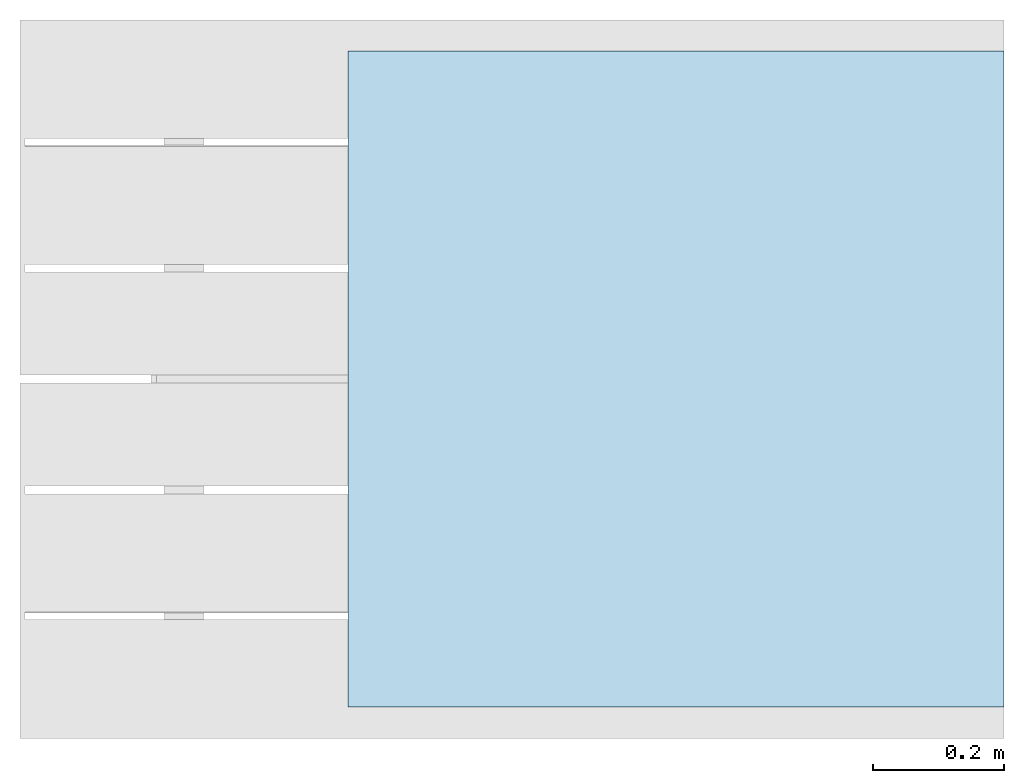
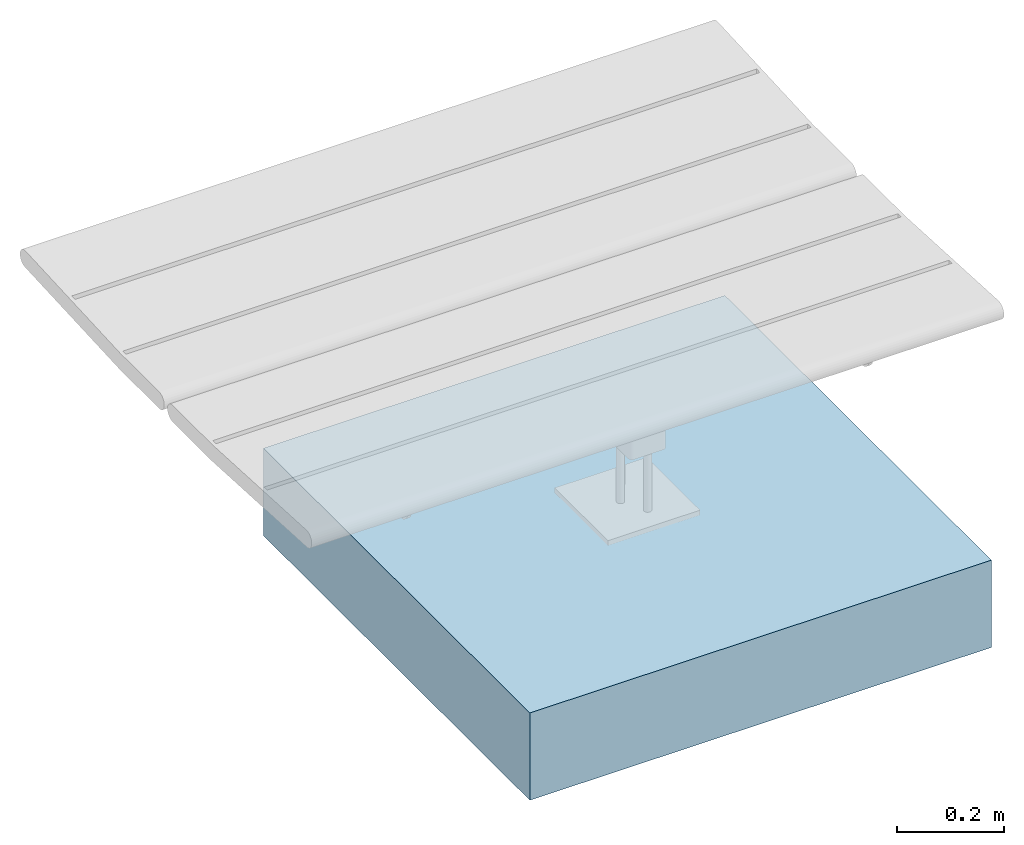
# One storey, part 1 of 2: 1 slab.
"""IFC4 building model written with IfcOpenShell, lengths in metres."""

import ifcopenshell
import ifcopenshell.guid

model = None  # the IFC model being written
_history = None  # IfcOwnerHistory: only IFC2X3 demands one
_inside = {}  # id of a spatial element -> (the spatial element, [elements in it])
_under = {}  # id of a project, library or spatial element -> (it, [spatial elements below it])
_declared = {}  # id of a project -> (the project, [libraries it declares])
_typed = {}  # id of a type object -> (the type object, [elements of that type])
_made_of = {}  # id of a material, layer set ... -> (it, [elements and type objects made of it])


def new_model(schema):
    """Start an empty IFC model of exactly this schema.

    Asked for "IFC4X3", IfcOpenShell would pick the latest addendum, in which some entities
    have other attributes; the version numbers below select the first issue.
    IFC2X3 requires an IfcOwnerHistory on every rooted entity: one is made here for all.
    """
    global model, _history
    if schema == "IFC4X3":
        model = ifcopenshell.file(schema_version=(4, 3, 0, 0))
    else:
        model = ifcopenshell.file(schema=schema)
    _inside.clear()
    _under.clear()
    _declared.clear()
    _typed.clear()
    _made_of.clear()
    _history = None
    if model.schema == "IFC2X3":
        org = make("IfcOrganization", Name="unknown")
        user = make(
            "IfcPersonAndOrganization",
            ThePerson=make("IfcPerson", FamilyName="unknown"),
            TheOrganization=org,
        )
        app = make(
            "IfcApplication",
            ApplicationDeveloper=org,
            Version="unknown",
            ApplicationFullName="unknown",
            ApplicationIdentifier="unknown",
        )
        _history = make(
            "IfcOwnerHistory",
            OwningUser=user,
            OwningApplication=app,
            ChangeAction="ADDED",
            CreationDate=0,
        )
    return model


def make(cls, **values):
    """One entity of the class cls with the attributes given. An attribute that is None is left unset."""
    return model.create_entity(
        cls, **{name: value for name, value in values.items() if value is not None}
    )


def entity(cls, *values):
    """Any entity or typed value of the class cls, its attributes in the order of the schema. None: left unset."""
    e = model.create_entity(cls)
    for i, value in enumerate(values):
        if value is not None:
            e[i] = value
    return e


def rooted(cls, **values):
    """An entity with a GlobalId (a new one), such as an element, a storey or a relation."""
    return make(cls, GlobalId=ifcopenshell.guid.new(), OwnerHistory=_history, **values)


def si_unit(unit_type, name, prefix=None):
    """IfcSIUnit, for example si_unit("LENGTHUNIT", "METRE", prefix="MILLI")."""
    return make("IfcSIUnit", UnitType=unit_type, Prefix=prefix, Name=name)


def converted_unit(unit_type, name, factor, base, dimensions=None, offset=None):
    """IfcConversionBasedUnit, such as the inch: factor (a typed value) times the base unit."""
    return make(
        "IfcConversionBasedUnit"
        if offset is None
        else "IfcConversionBasedUnitWithOffset",
        ConversionOffset=offset,
        Dimensions=None
        if dimensions is None
        else entity("IfcDimensionalExponents", *dimensions),
        UnitType=unit_type,
        Name=name,
        ConversionFactor=make(
            "IfcMeasureWithUnit", ValueComponent=factor, UnitComponent=base
        ),
    )


def assignment(units):
    """IfcUnitAssignment: the units of a project."""
    return None if units is None else make("IfcUnitAssignment", Units=units)


def point(xyz):
    """IfcCartesianPoint."""
    return None if xyz is None else make("IfcCartesianPoint", Coordinates=xyz)


def direction(xyz):
    """IfcDirection."""
    return None if xyz is None else make("IfcDirection", DirectionRatios=xyz)


def frame(location, z_axis=None, x_axis=None):
    """IfcAxis2Placement3D, a coordinate frame: its origin and axes. An axis left out is left unset."""
    return make(
        "IfcAxis2Placement3D",
        Location=point(location),
        Axis=direction(z_axis),
        RefDirection=direction(x_axis),
    )


def frame_2d(location, x_axis=None):
    """IfcAxis2Placement2D, a coordinate frame in the plane: its origin and x axis."""
    return make(
        "IfcAxis2Placement2D", Location=point(location), RefDirection=direction(x_axis)
    )


def origin():
    """The frame at (0, 0, 0) with its axes left unset."""
    return frame((0.0, 0.0, 0.0))


def origin_2d_with_axis():
    """The frame at (0, 0) in the plane with the x axis (1, 0) written out."""
    return frame_2d((0.0, 0.0), x_axis=(1.0, 0.0))


def place(relative_to, where):
    """IfcLocalPlacement: puts the frame where relative to a parent placement (None: the world)."""
    return make(
        "IfcLocalPlacement", PlacementRelTo=relative_to, RelativePlacement=where
    )


def context(
    kind, dimensions, precision=None, world=None, true_north=None, identifier=None
):
    """IfcGeometricRepresentationContext, for example the 3D "Model" context."""
    return make(
        "IfcGeometricRepresentationContext",
        ContextIdentifier=identifier,
        ContextType=kind,
        CoordinateSpaceDimension=dimensions,
        Precision=precision,
        WorldCoordinateSystem=world,
        TrueNorth=true_north,
    )


def subcontext(parent, identifier, kind, view, scale=None):
    """IfcGeometricRepresentationSubContext, for example "Body" below "Model"."""
    return make(
        "IfcGeometricRepresentationSubContext",
        ContextIdentifier=identifier,
        ContextType=kind,
        ParentContext=parent,
        TargetScale=scale,
        TargetView=view,
    )


def project(units=None, contexts=None):
    """IfcProject with its units and contexts."""
    return rooted(
        "IfcProject",
        Name="project",
        RepresentationContexts=contexts,
        UnitsInContext=assignment(units),
    )


def spatial(cls, under=None, at=None, **own):
    """A site, building, storey or space (cls), placed at a placement, below another one or the project."""
    s = rooted(cls, ObjectPlacement=at, **own)
    if under is not None:
        _under.setdefault(under.id(), (under, []))[1].append(s)
    return s


def profile(cls, at=None, kind="AREA", **sizes):
    """A parametric profile (cls). Its sizes go by their IFC names, for example OverallWidth=200.0."""
    return make(cls, ProfileType=kind, Position=at, **sizes)


def rectangle(**sizes):
    """IfcRectangleProfileDef."""
    return profile("IfcRectangleProfileDef", **sizes)


def extrude(swept, where, along, depth):
    """IfcExtrudedAreaSolid: the profile swept, set in the frame where, extruded along a direction by depth."""
    return make(
        "IfcExtrudedAreaSolid",
        SweptArea=swept,
        Position=where,
        ExtrudedDirection=direction(along),
        Depth=depth,
    )


def shape(context_of_items, identifier, shape_type, items):
    """IfcShapeRepresentation: the items that make up one representation, for example the "Body"."""
    return make(
        "IfcShapeRepresentation",
        ContextOfItems=context_of_items,
        RepresentationIdentifier=identifier,
        RepresentationType=shape_type,
        Items=items,
    )


def material(Name=None, Category=None):
    """IfcMaterial."""
    return make("IfcMaterial", Name=Name, Category=Category)


def made_of(thing, what):
    """Note that an element or type object is made of a material, layer set ...; save() writes the relation."""
    if what is not None:
        _made_of.setdefault(what.id(), (what, []))[1].append(thing)
    return thing


def type_object(cls, material=None, **own):
    """A type object (cls), such as IfcWallType, which elements share."""
    return made_of(rooted(cls, **own), material)


def element(
    cls,
    number,
    at=None,
    inside=None,
    cuts=None,
    type_object=None,
    material=None,
    context=None,
    identifier="Body",
    shape_type=None,
    held_by="IfcProductDefinitionShape",
    body=None,
    shapes=None,
    **own,
):
    """One element of the class cls, such as IfcWall. Its Tag is "e" and its number.

    at: its placement. inside: the storey or other place that contains it. cuts: it is an
    opening in that element (IfcRelVoidsElement). A single representation is given by context,
    identifier, shape_type and body (its items); several are given by shapes. held_by: the class
    of the entity that holds the representations. save() writes the other relations.
    """
    e = rooted(cls, Tag="e%d" % number, ObjectPlacement=at, **own)
    if body is not None:
        shapes = [shape(context, identifier, shape_type, body)]
    if shapes is not None:
        e.Representation = make(held_by, Representations=shapes)
    if inside is not None:
        _inside.setdefault(inside.id(), (inside, []))[1].append(e)
    if cuts is not None:
        rooted(
            "IfcRelVoidsElement", RelatingBuildingElement=cuts, RelatedOpeningElement=e
        )
    if type_object is not None:
        _typed.setdefault(type_object.id(), (type_object, []))[1].append(e)
    return made_of(e, material)


def aggregate(whole, parts):
    """IfcRelAggregates: a whole, such as a stair, and the parts it consists of."""
    return rooted("IfcRelAggregates", RelatingObject=whole, RelatedObjects=parts)


def save(model, path):
    """Write the relations noted so far, then the file.

    IfcRelAggregates (storeys below a building ...), IfcRelContainedInSpatialStructure (elements
    in a storey), IfcRelDefinesByType, IfcRelAssociatesMaterial and IfcRelDeclares: one each for
    every whole, place, type object, material and project.
    """
    for whole, parts in _under.values():
        aggregate(whole, parts)
    for where, things in _inside.values():
        rooted(
            "IfcRelContainedInSpatialStructure",
            RelatedElements=things,
            RelatingStructure=where,
        )
    for kind, things in _typed.values():
        rooted("IfcRelDefinesByType", RelatedObjects=things, RelatingType=kind)
    for what, things in _made_of.values():
        rooted("IfcRelAssociatesMaterial", RelatedObjects=things, RelatingMaterial=what)
    for by, libraries in _declared.values():
        rooted("IfcRelDeclares", RelatingContext=by, RelatedDefinitions=libraries)
    model.write(path)


model = new_model("IFC4")

# Units and contexts
model_context = context("Model", 3, precision=1e-05, world=origin(), true_north=direction((6.123031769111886e-17, 1.0)))
body_context = subcontext(model_context, "Body", "Model", "MODEL_VIEW")
ifc_project = project(units=[si_unit("LENGTHUNIT", "METRE"), converted_unit("PLANEANGLEUNIT", "DEGREE", entity("IfcPlaneAngleMeasure", 0.017453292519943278), si_unit("PLANEANGLEUNIT", "RADIAN"), dimensions=[0, 0, 0, 0, 0, 0, 0]), si_unit("AREAUNIT", "SQUARE_METRE")], contexts=[model_context])

# Site, building, storey
site_placement = place(None, origin())
site = spatial("IfcSite", under=ifc_project, at=site_placement, Name="Default", CompositionType="ELEMENT")
building_placement = place(site_placement, origin())
building = spatial("IfcBuilding", under=site, at=building_placement, CompositionType="ELEMENT")
storey_placement = place(building_placement, origin())
storey = spatial("IfcBuildingStorey", under=building, at=storey_placement, Name="Ebene 0", CompositionType="ELEMENT", Elevation=0.0)

# Slab
ifc_material = material(Name="DB_Fertigbeton", Category="DB_Beton")
slab_type = type_object("IfcSlabType", Name="DB_Calidum_light_Fundament:DB_Calidum_light_Fundament", PredefinedType="BASESLAB", material=ifc_material)
slab_placement = place(storey_placement, origin())
element("IfcSlab", 1, at=slab_placement, inside=storey, type_object=slab_type, Name="DB_Calidum_light_Fundament:DB_Calidum_light_Fundament", ObjectType="DB_Calidum_light_Fundament:DB_Calidum_light_Fundament", PredefinedType="BASESLAB", context=body_context, shape_type="SweptSolid", body=[
    extrude(rectangle(XDim=0.9999999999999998, YDim=0.9999999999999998, at=origin_2d_with_axis()), frame((1.0, 2.5422312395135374e-06, -0.3719999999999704), z_axis=(0.0, 0.0, 1.0), x_axis=(0.0, 1.0, 0.0)), (0.0, 0.0, 1.0), 0.2),
])

save(model, "model.ifc")
